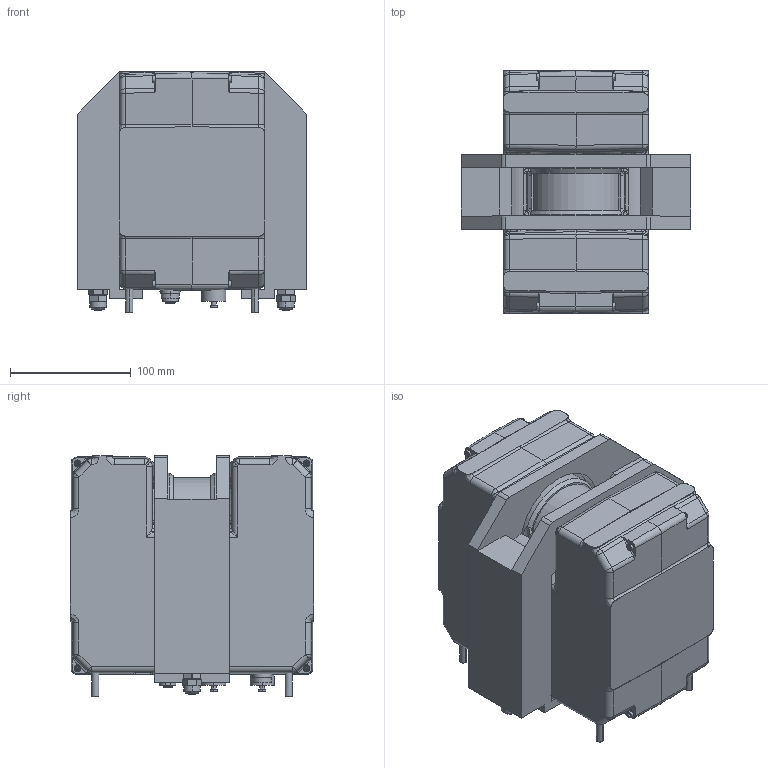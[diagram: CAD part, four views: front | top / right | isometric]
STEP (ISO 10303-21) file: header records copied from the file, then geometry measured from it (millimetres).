
FILE_DESCRIPTION((''),'2;1');
FILE_NAME('91700LOGGERHEAD-DUMMI_SW0001','2009-01-21T',('RKuepper'),(''),'PRO/ENGINEER BY PARAMETRIC TECHNOLOGY CORPORATION, 2006460','PRO/ENGINEER BY PARAMETRIC TECHNOLOGY CORPORATION, 2006460','');
FILE_SCHEMA(('CONFIG_CONTROL_DESIGN'));
Length unit declared in the file: millimetre
Products named in the file (1): 91700LOGGERHEAD-DUMMI_SW0001
Bounding box: 190 x 201.6 x 199 mm (x, y, z)
Volume: 4761867 mm3; surface area: 276918.6 mm2
Topology: 2 solids, 18 shells, 932 faces, 2261 edges, 1410 vertices
Faces by surface type: cylinder 366, plane 359, cone 75, bspline 56, torus 48, sphere 28
Entity records: 33235 total; most frequent: CARTESIAN_POINT 11975, ORIENTED_EDGE 4482, DIRECTION 4290, EDGE_CURVE 2241, AXIS2_PLACEMENT_3D 1620, VERTEX_POINT 1410, VECTOR 1050, LINE 1050
